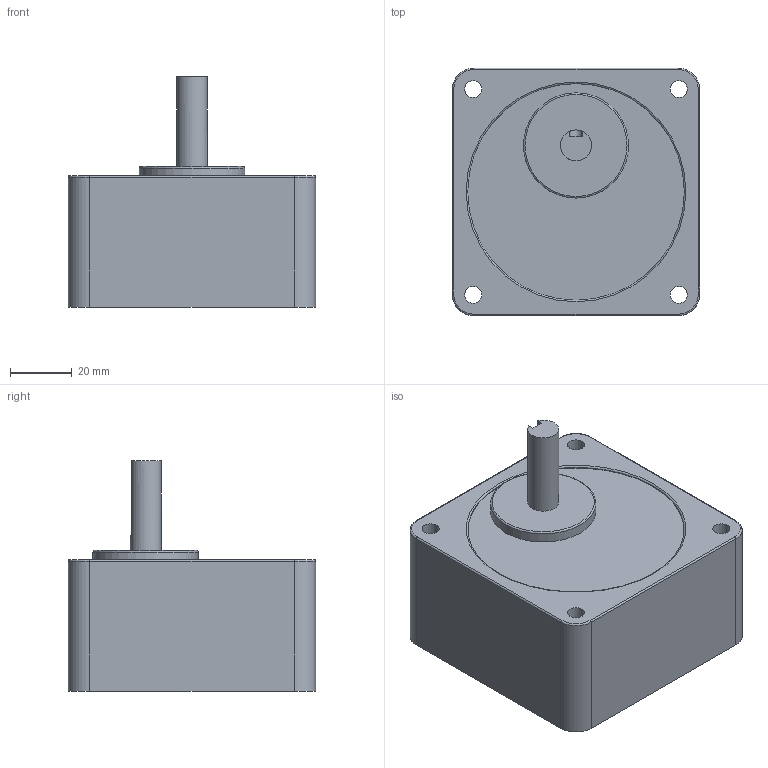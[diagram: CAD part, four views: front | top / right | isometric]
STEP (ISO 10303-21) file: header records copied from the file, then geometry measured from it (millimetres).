
FILE_DESCRIPTION((''),'2;1');
FILE_NAME('E:\2공장-도면\3D\표준형 3D(민규)\step file\감속기\K8G(20~250)B(C).stp','2014-11-13T15:45:06',('AHN'),(''),'Autodesk Inventor 2012','Autodesk Inventor 2012','');
FILE_SCHEMA(('CONFIG_CONTROL_DESIGN'));
Length unit declared in the file: millimetre
Products named in the file (1): K8G(20~250)B(C)
Bounding box: 80 x 80 x 74.5 mm (x, y, z)
Volume: 268869.7 mm3; surface area: 29964.7 mm2
Topology: 1 solids, 1 shells, 34 faces, 78 edges, 49 vertices
Faces by surface type: cylinder 16, plane 12, torus 6
Full cylindrical faces by diameter (mm): 5.5 x4, 10 x1, 34 x1, 70 x1
Entity records: 969 total; most frequent: DIRECTION 173, CARTESIAN_POINT 169, ORIENTED_EDGE 136, AXIS2_PLACEMENT_3D 72, EDGE_CURVE 68, EDGE_LOOP 54, VERTEX_POINT 48, CIRCLE 37
